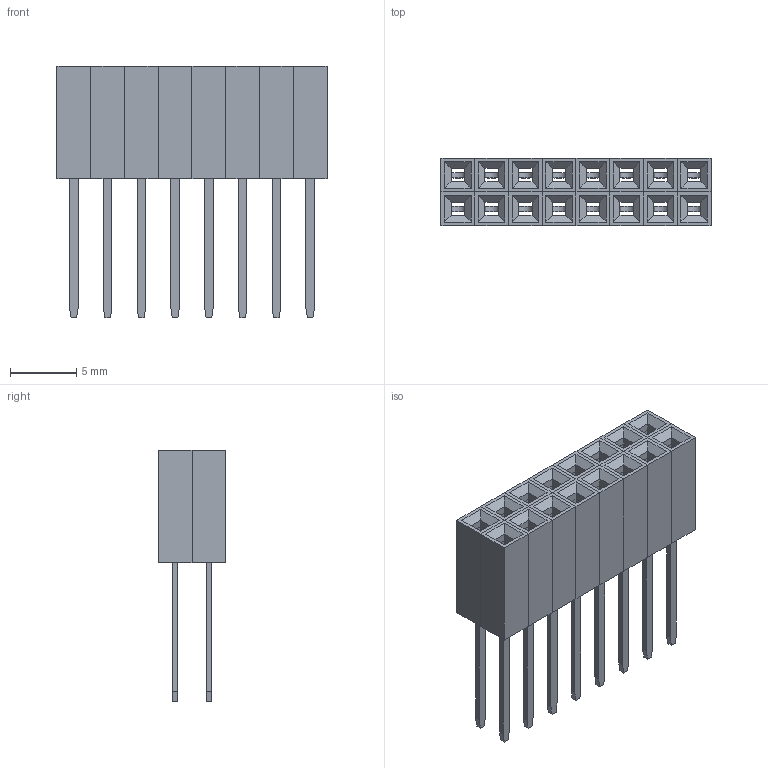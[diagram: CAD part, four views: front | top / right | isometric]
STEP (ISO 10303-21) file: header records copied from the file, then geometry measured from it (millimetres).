
FILE_DESCRIPTION(('FreeCAD Model'),'2;1');
FILE_NAME('Open CASCADE Shape Model','2024-02-09T10:53:05',( 'kicad StepUp'),('ksu MCAD'),'Open CASCADE STEP processor 7.6', 'FreeCAD','Unknown');
FILE_SCHEMA(('AUTOMOTIVE_DESIGN { 1 2 10303 214 0 1 1 1 }'));
Length unit declared in the file: millimetre
Products named in the file (29): Unnamed2; Unnamed1; Unnamed; SIL_Socket_Body; SIL_SocketPin; Unnamed001; SIL_Socket_Body002; SIL_SocketPin002; Unnamed004; Unnamed002; SIL_Socket_Body004; SIL_SocketPin004; Unnamed003; SIL_Socket_Body006; SIL_SocketPin006; Unnamed007; Unnamed005; SIL_Socket_Body008; SIL_SocketPin008; Unnamed006; SIL_Socket_Body010; SIL_SocketPin010; Unnamed010; Unnamed008; SIL_Socket_Body012; SIL_SocketPin012; Unnamed009; SIL_Socket_Body014; SIL_SocketPin014
Assembly tree (44 placements, depth 4):
  Unnamed2
    Unnamed1
      Unnamed
        SIL_Socket_Body  x2
        SIL_SocketPin  x2
      Unnamed001
        SIL_Socket_Body002  x2
        SIL_SocketPin002  x2
    Unnamed004
      Unnamed002
        SIL_Socket_Body004  x2
        SIL_SocketPin004  x2
      Unnamed003
        SIL_Socket_Body006  x2
        SIL_SocketPin006  x2
    Unnamed007
      Unnamed005
        SIL_Socket_Body008  x2
        SIL_SocketPin008  x2
      Unnamed006
        SIL_Socket_Body010  x2
        SIL_SocketPin010  x2
    Unnamed010
      Unnamed008
        SIL_Socket_Body012  x2
        SIL_SocketPin012  x2
      Unnamed009
        SIL_Socket_Body014  x2
        SIL_SocketPin014  x2
Bounding box: 20.32 x 5.08 x 18.96 mm (x, y, z)
Volume: 473.7 mm3; surface area: 3383.1 mm2
Topology: 32 solids, 32 shells, 624 faces, 1568 edges, 1024 vertices
Faces by surface type: plane 544, cylinder 80
Entity records: 11246 total; most frequent: CARTESIAN_POINT 1653, DIRECTION 1578, ORIENTED_EDGE 1568, EDGE_CURVE 784, LINE 704, VECTOR 704, VERTEX_POINT 512, AXIS2_PLACEMENT_3D 437
